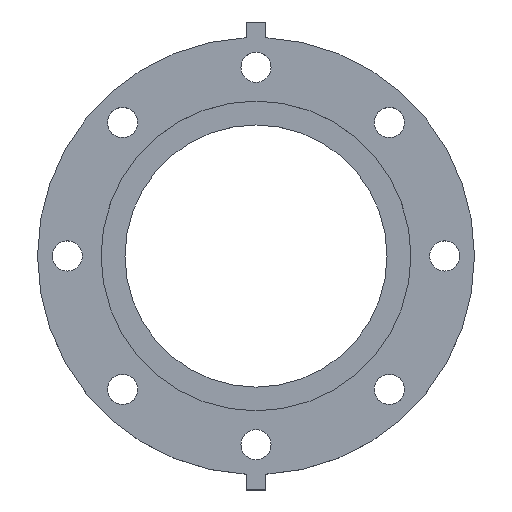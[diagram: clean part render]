
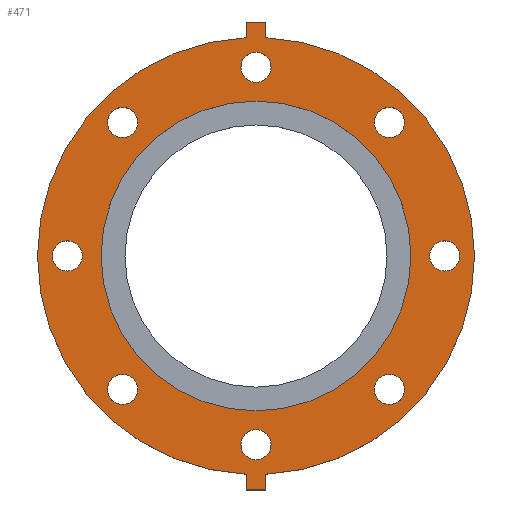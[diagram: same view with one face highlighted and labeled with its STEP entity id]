
A CAD part, top view. The second image highlights one B-rep face of the part: STEP entity #471.
In plain terms, the highlighted planar face has unit normal (0, 0, 1).
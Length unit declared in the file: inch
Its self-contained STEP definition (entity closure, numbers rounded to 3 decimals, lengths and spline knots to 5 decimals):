
#67=FACE_BOUND('',#152,.T.);
#68=FACE_BOUND('',#153,.T.);
#69=FACE_BOUND('',#154,.T.);
#70=FACE_BOUND('',#155,.T.);
#71=FACE_BOUND('',#156,.T.);
#72=FACE_BOUND('',#157,.T.);
#73=FACE_BOUND('',#158,.T.);
#74=FACE_BOUND('',#159,.T.);
#75=FACE_BOUND('',#160,.T.);
#87=CIRCLE('',#508,5.5);
#88=CIRCLE('',#513,0.38);
#89=CIRCLE('',#515,0.38);
#90=CIRCLE('',#517,0.38);
#91=CIRCLE('',#519,0.38);
#92=CIRCLE('',#521,0.38);
#93=CIRCLE('',#523,0.38);
#94=CIRCLE('',#525,0.38);
#95=CIRCLE('',#527,0.38);
#98=CIRCLE('',#533,3.9);
#99=CIRCLE('',#535,5.5);
#120=FACE_OUTER_BOUND('',#151,.T.);
#151=EDGE_LOOP('',(#402,#403,#404,#405,#406,#407,#408,#409));
#152=EDGE_LOOP('',(#410));
#153=EDGE_LOOP('',(#411));
#154=EDGE_LOOP('',(#412));
#155=EDGE_LOOP('',(#413));
#156=EDGE_LOOP('',(#414));
#157=EDGE_LOOP('',(#415));
#158=EDGE_LOOP('',(#416));
#159=EDGE_LOOP('',(#417));
#160=EDGE_LOOP('',(#418));
#162=LINE('',#704,#192);
#168=LINE('',#716,#198);
#170=LINE('',#719,#200);
#175=LINE('',#754,#205);
#179=LINE('',#761,#209);
#180=LINE('',#763,#210);
#192=VECTOR('',#555,0.3937);
#198=VECTOR('',#563,0.3937);
#200=VECTOR('',#567,0.3937);
#205=VECTOR('',#602,0.3937);
#209=VECTOR('',#608,0.3937);
#210=VECTOR('',#611,0.3937);
#221=VERTEX_POINT('',#700);
#223=VERTEX_POINT('',#703);
#226=VERTEX_POINT('',#710);
#228=VERTEX_POINT('',#714);
#242=VERTEX_POINT('',#749);
#243=VERTEX_POINT('',#753);
#244=VERTEX_POINT('',#757);
#245=VERTEX_POINT('',#759);
#246=VERTEX_POINT('',#765);
#247=VERTEX_POINT('',#769);
#248=VERTEX_POINT('',#773);
#249=VERTEX_POINT('',#777);
#250=VERTEX_POINT('',#781);
#251=VERTEX_POINT('',#785);
#252=VERTEX_POINT('',#789);
#253=VERTEX_POINT('',#793);
#256=VERTEX_POINT('',#804);
#258=EDGE_CURVE('',#221,#223,#162,.T.);
#264=EDGE_CURVE('',#228,#226,#168,.T.);
#266=EDGE_CURVE('',#223,#228,#170,.T.);
#281=EDGE_CURVE('',#242,#226,#87,.T.);
#283=EDGE_CURVE('',#243,#242,#175,.T.);
#287=EDGE_CURVE('',#244,#245,#179,.T.);
#288=EDGE_CURVE('',#245,#243,#180,.T.);
#290=EDGE_CURVE('',#246,#246,#88,.T.);
#292=EDGE_CURVE('',#247,#247,#89,.T.);
#294=EDGE_CURVE('',#248,#248,#90,.T.);
#296=EDGE_CURVE('',#249,#249,#91,.T.);
#298=EDGE_CURVE('',#250,#250,#92,.T.);
#300=EDGE_CURVE('',#251,#251,#93,.T.);
#302=EDGE_CURVE('',#252,#252,#94,.T.);
#304=EDGE_CURVE('',#253,#253,#95,.T.);
#309=EDGE_CURVE('',#256,#256,#98,.T.);
#310=EDGE_CURVE('',#221,#244,#99,.T.);
#402=ORIENTED_EDGE('',*,*,#310,.T.);
#403=ORIENTED_EDGE('',*,*,#287,.T.);
#404=ORIENTED_EDGE('',*,*,#288,.T.);
#405=ORIENTED_EDGE('',*,*,#283,.T.);
#406=ORIENTED_EDGE('',*,*,#281,.T.);
#407=ORIENTED_EDGE('',*,*,#264,.F.);
#408=ORIENTED_EDGE('',*,*,#266,.F.);
#409=ORIENTED_EDGE('',*,*,#258,.F.);
#410=ORIENTED_EDGE('',*,*,#290,.T.);
#411=ORIENTED_EDGE('',*,*,#292,.T.);
#412=ORIENTED_EDGE('',*,*,#294,.T.);
#413=ORIENTED_EDGE('',*,*,#296,.T.);
#414=ORIENTED_EDGE('',*,*,#298,.T.);
#415=ORIENTED_EDGE('',*,*,#300,.T.);
#416=ORIENTED_EDGE('',*,*,#302,.T.);
#417=ORIENTED_EDGE('',*,*,#304,.T.);
#418=ORIENTED_EDGE('',*,*,#309,.T.);
#427=PLANE('',#536);
#471=ADVANCED_FACE('',(#120,#67,#68,#69,#70,#71,#72,#73,#74,#75),#427,.T.);
#508=AXIS2_PLACEMENT_3D('',#750,#597,#598);
#513=AXIS2_PLACEMENT_3D('',#767,#615,#616);
#515=AXIS2_PLACEMENT_3D('',#771,#620,#621);
#517=AXIS2_PLACEMENT_3D('',#775,#625,#626);
#519=AXIS2_PLACEMENT_3D('',#779,#630,#631);
#521=AXIS2_PLACEMENT_3D('',#783,#635,#636);
#523=AXIS2_PLACEMENT_3D('',#787,#640,#641);
#525=AXIS2_PLACEMENT_3D('',#791,#645,#646);
#527=AXIS2_PLACEMENT_3D('',#795,#650,#651);
#533=AXIS2_PLACEMENT_3D('',#806,#664,#665);
#535=AXIS2_PLACEMENT_3D('',#808,#668,#669);
#536=AXIS2_PLACEMENT_3D('',#809,#670,#671);
#555=DIRECTION('',(0.,-1.,0.));
#563=DIRECTION('',(0.,1.,0.));
#567=DIRECTION('',(-1.,0.,0.));
#597=DIRECTION('center_axis',(0.,0.,1.));
#598=DIRECTION('ref_axis',(-1.,0.,0.));
#602=DIRECTION('',(0.,-1.,0.));
#608=DIRECTION('',(0.,1.,0.));
#611=DIRECTION('',(-1.,0.,0.));
#615=DIRECTION('center_axis',(0.,0.,-1.));
#616=DIRECTION('ref_axis',(-0.707,0.707,0.));
#620=DIRECTION('center_axis',(0.,0.,-1.));
#621=DIRECTION('ref_axis',(0.,1.,0.));
#625=DIRECTION('center_axis',(0.,0.,-1.));
#626=DIRECTION('ref_axis',(0.707,0.707,0.));
#630=DIRECTION('center_axis',(0.,0.,-1.));
#631=DIRECTION('ref_axis',(1.,0.,0.));
#635=DIRECTION('center_axis',(0.,0.,-1.));
#636=DIRECTION('ref_axis',(0.707,-0.707,0.));
#640=DIRECTION('center_axis',(0.,0.,-1.));
#641=DIRECTION('ref_axis',(0.,-1.,0.));
#645=DIRECTION('center_axis',(0.,0.,-1.));
#646=DIRECTION('ref_axis',(-0.707,-0.707,0.));
#650=DIRECTION('center_axis',(0.,0.,-1.));
#651=DIRECTION('ref_axis',(-1.,0.,0.));
#664=DIRECTION('center_axis',(0.,0.,-1.));
#665=DIRECTION('ref_axis',(-1.,0.,0.));
#668=DIRECTION('center_axis',(0.,0.,1.));
#669=DIRECTION('ref_axis',(-1.,0.,0.));
#670=DIRECTION('center_axis',(0.,0.,1.));
#671=DIRECTION('ref_axis',(1.,0.,0.));
#700=CARTESIAN_POINT('',(0.25,-5.49432,1.));
#703=CARTESIAN_POINT('',(0.25,-5.89,1.));
#704=CARTESIAN_POINT('',(0.25,-5.89,1.));
#710=CARTESIAN_POINT('',(-0.25,-5.49432,1.));
#714=CARTESIAN_POINT('',(-0.25,-5.89,1.));
#716=CARTESIAN_POINT('',(-0.25,-5.23,1.));
#719=CARTESIAN_POINT('',(-0.25,-5.89,1.));
#749=CARTESIAN_POINT('',(-0.25,5.49432,1.));
#750=CARTESIAN_POINT('Origin',(0.,0.,1.));
#753=CARTESIAN_POINT('',(-0.25,5.89,1.));
#754=CARTESIAN_POINT('',(-0.25,5.23,1.));
#757=CARTESIAN_POINT('',(0.25,5.49432,1.));
#759=CARTESIAN_POINT('',(0.25,5.89,1.));
#761=CARTESIAN_POINT('',(0.25,5.89,1.));
#763=CARTESIAN_POINT('',(-0.25,5.89,1.));
#765=CARTESIAN_POINT('',(3.62746,3.09006,1.));
#767=CARTESIAN_POINT('Origin',(3.35876,3.35876,1.));
#769=CARTESIAN_POINT('',(4.75,-0.38,1.));
#771=CARTESIAN_POINT('Origin',(4.75,0.,1.));
#773=CARTESIAN_POINT('',(3.09006,-3.62746,1.));
#775=CARTESIAN_POINT('Origin',(3.35876,-3.35876,1.));
#777=CARTESIAN_POINT('',(-0.38,-4.75,1.));
#779=CARTESIAN_POINT('Origin',(0.,-4.75,1.));
#781=CARTESIAN_POINT('',(-3.62746,-3.09006,1.));
#783=CARTESIAN_POINT('Origin',(-3.35876,-3.35876,1.));
#785=CARTESIAN_POINT('',(-4.75,0.38,1.));
#787=CARTESIAN_POINT('Origin',(-4.75,0.,1.));
#789=CARTESIAN_POINT('',(-3.09006,3.62746,1.));
#791=CARTESIAN_POINT('Origin',(-3.35876,3.35876,1.));
#793=CARTESIAN_POINT('',(0.38,4.75,1.));
#795=CARTESIAN_POINT('Origin',(0.,4.75,1.));
#804=CARTESIAN_POINT('',(3.9,0.,1.));
#806=CARTESIAN_POINT('Origin',(0.,0.,1.));
#808=CARTESIAN_POINT('Origin',(0.,0.,1.));
#809=CARTESIAN_POINT('Origin',(0.,0.,1.));
